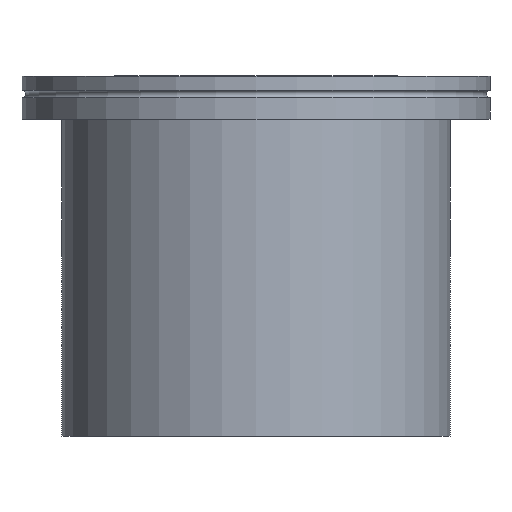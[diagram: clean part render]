
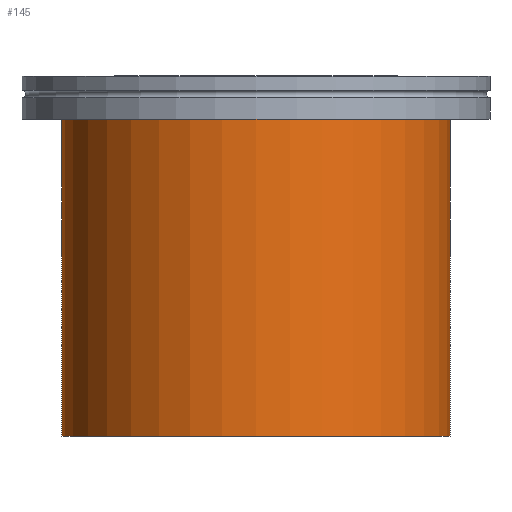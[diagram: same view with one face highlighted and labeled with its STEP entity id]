
A CAD part, front view. The second image highlights one B-rep face of the part: STEP entity #145.
In plain terms, the highlighted cylindrical face has radius 54 mm (diameter 108 mm), a full revolution.
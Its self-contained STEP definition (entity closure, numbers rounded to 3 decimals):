
#145 = ADVANCED_FACE( '', ( #271, #272 ), #273, .T. );
#271 = FACE_OUTER_BOUND( '', #379, .T. );
#272 = FACE_OUTER_BOUND( '', #380, .T. );
#273 = CYLINDRICAL_SURFACE( '', #381, 54. );
#379 = EDGE_LOOP( '', ( #477 ) );
#380 = EDGE_LOOP( '', ( #478 ) );
#381 = AXIS2_PLACEMENT_3D( '', #479, #480, #481 );
#477 = ORIENTED_EDGE( '', *, *, #532, .F. );
#478 = ORIENTED_EDGE( '', *, *, #510, .T. );
#479 = CARTESIAN_POINT( '', ( 0., 0., 46.25 ) );
#480 = DIRECTION( '', ( 0., 0., -1. ) );
#481 = DIRECTION( '', ( -1., 0., 0. ) );
#510 = EDGE_CURVE( '', #548, #548, #549, .T. );
#532 = EDGE_CURVE( '', #581, #581, #582, .T. );
#548 = VERTEX_POINT( '', #599 );
#549 = CIRCLE( '', #600, 54. );
#581 = VERTEX_POINT( '', #632 );
#582 = CIRCLE( '', #633, 54. );
#599 = CARTESIAN_POINT( '', ( 54., 0., 46.25 ) );
#600 = AXIS2_PLACEMENT_3D( '', #651, #652, #653 );
#632 = CARTESIAN_POINT( '', ( 54., 0., -46.25 ) );
#633 = AXIS2_PLACEMENT_3D( '', #684, #685, #686 );
#651 = CARTESIAN_POINT( '', ( 0., 0., 46.25 ) );
#652 = DIRECTION( '', ( 0., 0., -1. ) );
#653 = DIRECTION( '', ( 1., 0., 0. ) );
#684 = CARTESIAN_POINT( '', ( 0., 0., -46.25 ) );
#685 = DIRECTION( '', ( 0., 0., -1. ) );
#686 = DIRECTION( '', ( 1., 0., 0. ) );
